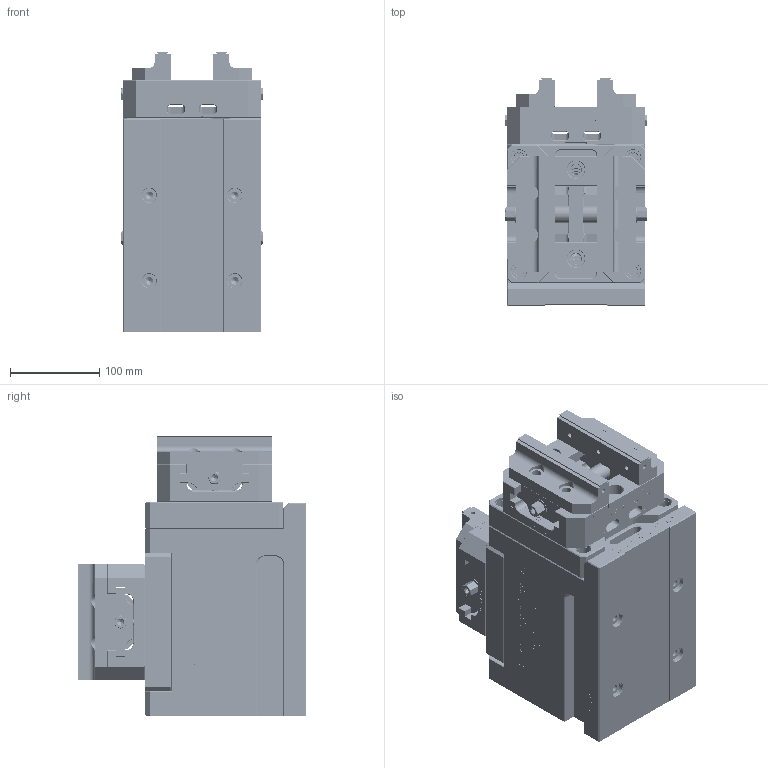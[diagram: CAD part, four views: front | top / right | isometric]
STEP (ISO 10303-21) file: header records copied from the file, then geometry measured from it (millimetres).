
FILE_DESCRIPTION((''),'2;1');
FILE_NAME('TS96-0090_ASM','2024-05-31T08:57:32',('XF'),(''),'CREO PARAMETRIC BY PTC INC, 2022073','CREO PARAMETRIC BY PTC INC, 2022073','');
FILE_SCHEMA(('CONFIG_CONTROL_DESIGN'));
Products named in the file (11): PRT0001_1; TS96-155_1; TS96-0090_ASM_1_ASM; CV155130-MODLE1_3; CV155130-MODLE2_2; CV155130-MODLE5_3; CV155130-MODLE3_2; CV155130-MODLE4_4; CV155130-MODLE_ASM_1_ASM; CV155130-MODLE_ASM_ASM; TS96-0090_ASM
Assembly tree (14 placements, depth 4):
  TS96-0090_ASM
    TS96-0090_ASM_1_ASM
      PRT0001_1
      TS96-155_1  x2
    CV155130-MODLE_ASM_ASM  x2
      CV155130-MODLE_ASM_1_ASM
        CV155130-MODLE1_3
        CV155130-MODLE2_2
        CV155130-MODLE5_3  x2
        CV155130-MODLE3_2
        CV155130-MODLE4_4  x2
Bounding box: 160 x 255.4 x 315.4 mm (x, y, z)
Volume: 8042642.2 mm3; surface area: 756676.3 mm2
Topology: 17 solids, 67 shells, 9640 faces, 26799 edges, 17764 vertices
Faces by surface type: plane 5134, extrusion 3205, cylinder 755, cone 474, bspline 48, torus 24
Entity records: 185980 total; most frequent: CARTESIAN_POINT 52905, ORIENTED_EDGE 30256, DIRECTION 20944, EDGE_CURVE 15168, VECTOR 11702, VERTEX_POINT 10094, LINE 9641, B_SPLINE_CURVE_WITH_KNOTS 6407
